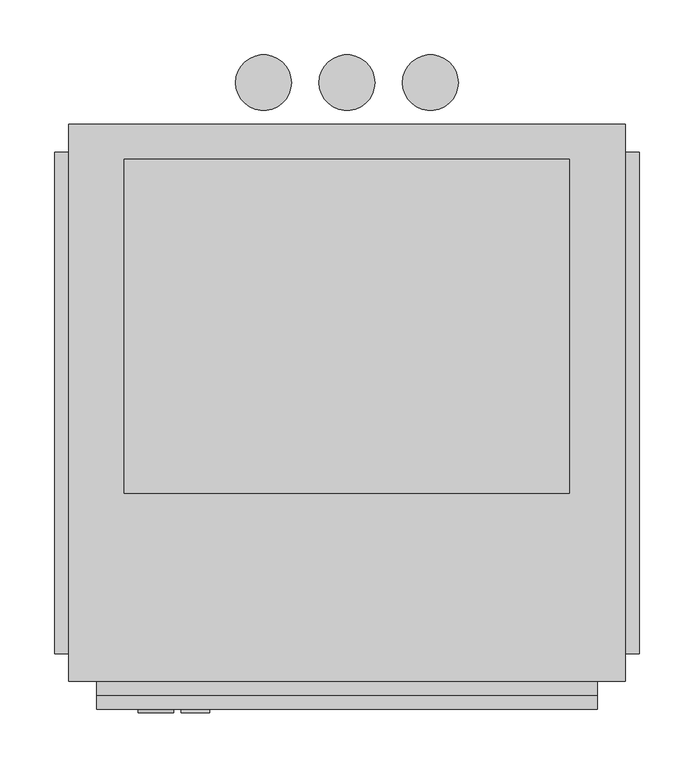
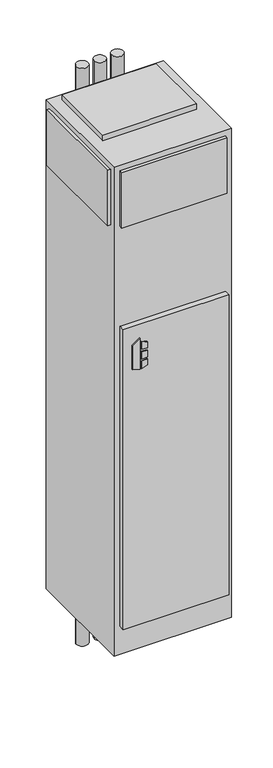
"""IFC4 building model written with IfcOpenShell, lengths in millimetres: proxy geometry, Concealed_Modular_Fan_Coil_Unit_-_MPY_-_IEC_-_2-Pipe_Cool-EHeat_-_WithRisers_2022 : Size 06 - 277v/60Hz/1Ph - 4 Row 6.0kW."""

from ifc_helpers import new_model, si_unit, point, frame, frame_2d, origin, origin_with_axes, place, context, project, spatial, polyline, circle_curve, trimmed, segment, composite_curve, outline, extrude, source, transform, mapped, element, save


def mechanical_equipment_680828ab(model_context):
    return source(origin(), model_context, "Body", "SweptSolid", [
        extrude(outline(polyline([(1305.3480703, 215.9), (1295.4, 248.0733866), (1437.5709244, 248.0733866), (1414.5489183, 215.9), (1305.3480703, 215.9)])), frame((0.0, -292.1, 0.0), z_axis=(0.0, 1.0, 0.0), x_axis=(0.0, 0.0, 1.0)), (0.0, 0.0, 1.0), 3.175),
        extrude(outline(polyline([(1384.3473557, 254.8317195), (1381.1449632, 280.9131138), (1410.3738042, 280.9131138), (1418.4382193, 254.8317195), (1384.3473557, 254.8317195)])), frame((0.0, -292.1, 0.0), z_axis=(0.0, 1.0, 0.0), x_axis=(0.0, 0.0, 1.0)), (0.0, 0.0, 1.0), 3.175),
        extrude(outline(polyline([(1332.4838288, 280.9131138), (1328.8183279, 254.8317195), (1295.4, 254.8317195), (1304.0342372, 280.9131138), (1332.4838288, 280.9131138)])), frame((0.0, -292.1, 0.0), z_axis=(0.0, 1.0, 0.0), x_axis=(0.0, 0.0, 1.0)), (0.0, 0.0, 1.0), 3.175),
        extrude(outline(polyline([(1371.7989903, 280.9131138), (1374.0808166, 254.8317195), (1338.1432681, 254.8317195), (1340.8845331, 280.9131138), (1371.7989903, 280.9131138)])), frame((0.0, -292.1, 0.0), z_axis=(0.0, 1.0, 0.0), x_axis=(0.0, 0.0, 1.0)), (0.0, 0.0, 1.0), 3.175),
        extrude(outline(composite_curve([segment(trimmed(circle_curve(frame_2d((406.4, 282.575)), 25.4), [point((381.0, 282.575))], [point((431.8, 282.575))], False, "CARTESIAN"), True, "CONTINUOUS"), segment(trimmed(circle_curve(frame_2d((406.4, 282.575)), 25.4), [point((431.8, 282.575))], [point((381.0, 282.575))], False, "CARTESIAN"), True, "CONTINUOUS")], self_intersect=False)), frame((0.0, 0.0, -330.2), z_axis=(0.0, 0.0, 1.0), x_axis=(1.0, 0.0, 0.0)), (0.0, 0.0, 1.0), 2641.6),
        extrude(outline(composite_curve([segment(trimmed(circle_curve(frame_2d((482.6, 282.575)), 25.4), [point((457.2, 282.575))], [point((508.0, 282.575))], False, "CARTESIAN"), True, "CONTINUOUS"), segment(trimmed(circle_curve(frame_2d((482.6, 282.575)), 25.4), [point((508.0, 282.575))], [point((457.2, 282.575))], False, "CARTESIAN"), True, "CONTINUOUS")], self_intersect=False)), frame((0.0, 0.0, -330.2), z_axis=(0.0, 0.0, 1.0), x_axis=(1.0, 0.0, 0.0)), (0.0, 0.0, 1.0), 2641.6),
        extrude(outline(composite_curve([segment(trimmed(circle_curve(frame_2d((330.2, 282.575)), 25.4), [point((304.8, 282.575))], [point((355.6, 282.575))], False, "CARTESIAN"), True, "CONTINUOUS"), segment(trimmed(circle_curve(frame_2d((330.2, 282.575)), 25.4), [point((355.6, 282.575))], [point((304.8, 282.575))], False, "CARTESIAN"), True, "CONTINUOUS")], self_intersect=False)), frame((0.0, 0.0, -330.2), z_axis=(0.0, 0.0, 1.0), x_axis=(1.0, 0.0, 0.0)), (0.0, 0.0, 1.0), 2641.6),
        extrude(outline(polyline([(609.6, 212.725), (609.6, -92.075), (203.2, -92.075), (203.2, 212.725), (609.6, 212.725)])), frame((0.0, 0.0, 2235.2), z_axis=(0.0, 0.0, 1.0), x_axis=(1.0, 0.0, 0.0)), (0.0, 0.0, 1.0), 25.4),
        extrude(outline(polyline([(139.7, -238.125), (139.7, 219.075), (152.4, 219.075), (152.4, -238.125), (139.7, -238.125)])), frame((0.0, 0.0, 1955.8), z_axis=(0.0, 0.0, 1.0), x_axis=(1.0, 0.0, 0.0)), (0.0, 0.0, 1.0), 254.0),
        extrude(outline(polyline([(673.1, 219.075), (673.1, -238.125), (660.4, -238.125), (660.4, 219.075), (673.1, 219.075)])), frame((0.0, 0.0, 1955.8), z_axis=(0.0, 0.0, 1.0), x_axis=(1.0, 0.0, 0.0)), (0.0, 0.0, 1.0), 254.0),
        extrude(outline(polyline([(635.0, -276.225), (177.8, -276.225), (177.8, -263.525), (635.0, -263.525), (635.0, -276.225)])), frame((0.0, 0.0, 1955.8), z_axis=(0.0, 0.0, 1.0), x_axis=(1.0, 0.0, 0.0)), (0.0, 0.0, 1.0), 254.0),
        extrude(outline(polyline([(635.0, -288.925), (177.8, -288.925), (177.8, -263.525), (635.0, -263.525), (635.0, -288.925)])), frame((0.0, 0.0, 127.0), z_axis=(0.0, 0.0, 1.0), x_axis=(1.0, 0.0, 0.0)), (0.0, 0.0, 1.0), 1371.6),
        extrude(outline(polyline([(660.4, 244.475), (660.4, -263.525), (152.4, -263.525), (152.4, 244.475), (660.4, 244.475)])), origin_with_axes(), (0.0, 0.0, 1.0), 2235.2),
    ])


if __name__ == "__main__":
    model = new_model("IFC4")
    model_context = context("Model", 3, world=origin())
    ifc_project = project(units=[si_unit("LENGTHUNIT", "METRE", prefix="MILLI")], contexts=[model_context])
    site = spatial("IfcSite", under=ifc_project)
    building = spatial("IfcBuilding", under=site)
    placement = place(None, origin())
    mechanical_equipment_shape = mechanical_equipment_680828ab(model_context)
    element("IfcBuildingElementProxy", 1, Name="Concealed_Modular_Fan_Coil_Unit_-_MPY_-_IEC_-_2-Pipe_Cool-EHeat_-_WithRisers_2022 : Size 06 - 277v/60Hz/1Ph - 4 Row 6.0kW", ObjectType="Concealed_Modular_Fan_Coil_Unit_-_MPY_-_IEC_-_2-Pipe_Cool-EHeat_-_WithRisers_2022 : Size 06 - 277v/60Hz/1Ph - 4 Row 6.0kW", at=placement, inside=building, context=model_context, shape_type="MappedRepresentation", body=[
        mapped(mechanical_equipment_shape, transform((0.0, 0.0, 0.0), x_axis=(1.0, 0.0, 0.0), y_axis=(0.0, 1.0, 0.0), z_axis=(0.0, 0.0, 1.0))),
    ])
    save(model, "model.ifc")
